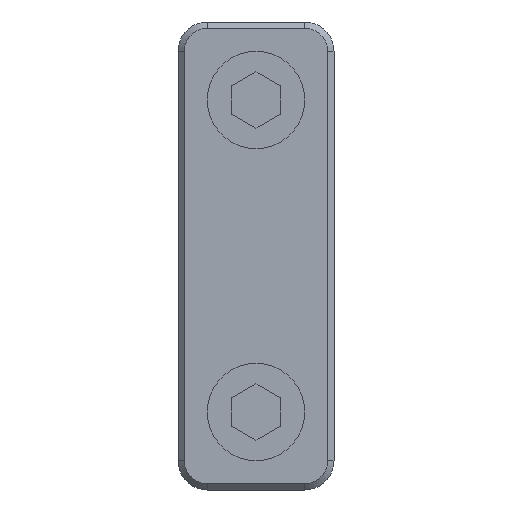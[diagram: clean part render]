
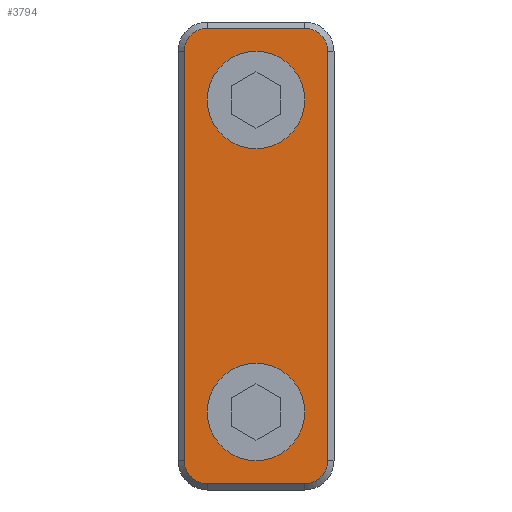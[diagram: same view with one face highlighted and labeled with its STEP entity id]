
A CAD part, front view. The second image highlights one B-rep face of the part: STEP entity #3794.
In plain terms, the highlighted planar face has unit normal (0, -1, 0).
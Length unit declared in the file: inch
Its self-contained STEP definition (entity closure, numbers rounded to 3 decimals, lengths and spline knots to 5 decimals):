
#36 = ORIENTED_EDGE ( 'NONE', *, *, #539, .T. ) ;
#388 = DIRECTION ( 'NONE',  ( 0., 0., 1. ) ) ;
#436 = CIRCLE ( 'NONE', #4595, 0.074 ) ;
#518 = DIRECTION ( 'NONE',  ( 0., -1., 0. ) ) ;
#539 = EDGE_CURVE ( 'NONE', #2747, #8212, #8552, .T. ) ;
#769 = ORIENTED_EDGE ( 'NONE', *, *, #7994, .T. ) ;
#892 = DIRECTION ( 'NONE',  ( 0., -1., 0. ) ) ;
#938 = DIRECTION ( 'NONE',  ( 0., 1., 0. ) ) ;
#1143 = EDGE_CURVE ( 'NONE', #8359, #1504, #1590, .T. ) ;
#1206 = VERTEX_POINT ( 'NONE', #2215 ) ;
#1326 = AXIS2_PLACEMENT_3D ( 'NONE', #5146, #3804, #6005 ) ;
#1340 = AXIS2_PLACEMENT_3D ( 'NONE', #7446, #892, #3830 ) ;
#1353 = ORIENTED_EDGE ( 'NONE', *, *, #7857, .F. ) ;
#1504 = VERTEX_POINT ( 'NONE', #3065 ) ;
#1590 = CIRCLE ( 'NONE', #6188, 0.074 ) ;
#1599 = DIRECTION ( 'NONE',  ( 0., 0., 1. ) ) ;
#1867 = CARTESIAN_POINT ( 'NONE',  ( 0., 0., -0.5 ) ) ;
#1937 = DIRECTION ( 'NONE',  ( 0., 0., 1. ) ) ;
#2176 = EDGE_LOOP ( 'NONE', ( #6257, #3289 ) ) ;
#2215 = CARTESIAN_POINT ( 'NONE',  ( 0., 0., -0.4205 ) ) ;
#2249 = CIRCLE ( 'NONE', #1326, 0.0795 ) ;
#2285 = AXIS2_PLACEMENT_3D ( 'NONE', #1867, #3266, #7604 ) ;
#2287 = VERTEX_POINT ( 'NONE', #6050 ) ;
#2412 = CARTESIAN_POINT ( 'NONE',  ( 0.156, 0., -0.73 ) ) ;
#2427 = FACE_OUTER_BOUND ( 'NONE', #3998, .T. ) ;
#2438 = VERTEX_POINT ( 'NONE', #8646 ) ;
#2477 = PLANE ( 'NONE',  #8258 ) ;
#2481 = VERTEX_POINT ( 'NONE', #4242 ) ;
#2536 = CARTESIAN_POINT ( 'NONE',  ( 0.25, 0., -0.73 ) ) ;
#2547 = EDGE_CURVE ( 'NONE', #2438, #2287, #3823, .T. ) ;
#2660 = ORIENTED_EDGE ( 'NONE', *, *, #4427, .T. ) ;
#2747 = VERTEX_POINT ( 'NONE', #7489 ) ;
#2958 = EDGE_CURVE ( 'NONE', #5639, #8639, #436, .T. ) ;
#3061 = CIRCLE ( 'NONE', #2285, 0.0795 ) ;
#3065 = CARTESIAN_POINT ( 'NONE',  ( -0.156, 0., -0.73 ) ) ;
#3158 = DIRECTION ( 'NONE',  ( 0., 0., 1. ) ) ;
#3178 = AXIS2_PLACEMENT_3D ( 'NONE', #6298, #8495, #1937 ) ;
#3266 = DIRECTION ( 'NONE',  ( 0., -1., 0. ) ) ;
#3289 = ORIENTED_EDGE ( 'NONE', *, *, #5834, .F. ) ;
#3370 = DIRECTION ( 'NONE',  ( 0., -1., 0. ) ) ;
#3434 = VECTOR ( 'NONE', #4191, 39.37008 ) ;
#3575 = DIRECTION ( 'NONE',  ( 0., 0., -1. ) ) ;
#3578 = ORIENTED_EDGE ( 'NONE', *, *, #5319, .F. ) ;
#3772 = FACE_BOUND ( 'NONE', #4676, .T. ) ;
#3794 = ADVANCED_FACE ( 'NONE', ( #3772, #7539, #2427 ), #2477, .F. ) ;
#3804 = DIRECTION ( 'NONE',  ( 0., -1., 0. ) ) ;
#3823 = CIRCLE ( 'NONE', #6725, 0.0795 ) ;
#3830 = DIRECTION ( 'NONE',  ( 0., 0., -1. ) ) ;
#3907 = EDGE_CURVE ( 'NONE', #5777, #2747, #7281, .T. ) ;
#3998 = EDGE_LOOP ( 'NONE', ( #4236, #769, #6800, #5789, #8698, #36, #7016, #2660 ) ) ;
#4044 = CARTESIAN_POINT ( 'NONE',  ( -0.156, 0., -0.656 ) ) ;
#4096 = AXIS2_PLACEMENT_3D ( 'NONE', #7663, #3370, #8437 ) ;
#4191 = DIRECTION ( 'NONE',  ( -1., 0., 0. ) ) ;
#4236 = ORIENTED_EDGE ( 'NONE', *, *, #1143, .T. ) ;
#4242 = CARTESIAN_POINT ( 'NONE',  ( -0.23, 0., 0.656 ) ) ;
#4427 = EDGE_CURVE ( 'NONE', #2481, #8359, #7242, .T. ) ;
#4595 = AXIS2_PLACEMENT_3D ( 'NONE', #5664, #518, #4986 ) ;
#4612 = EDGE_CURVE ( 'NONE', #8639, #5777, #5913, .T. ) ;
#4676 = EDGE_LOOP ( 'NONE', ( #1353, #3578 ) ) ;
#4748 = CARTESIAN_POINT ( 'NONE',  ( 0., 0., -0.5795 ) ) ;
#4986 = DIRECTION ( 'NONE',  ( 0., 0., 1. ) ) ;
#5078 = CARTESIAN_POINT ( 'NONE',  ( -0.156, 0., 0.73 ) ) ;
#5125 = CARTESIAN_POINT ( 'NONE',  ( 0.23, 0., 0.656 ) ) ;
#5146 = CARTESIAN_POINT ( 'NONE',  ( 0., 0., -0.5 ) ) ;
#5319 = EDGE_CURVE ( 'NONE', #1206, #8837, #2249, .T. ) ;
#5464 = DIRECTION ( 'NONE',  ( 1., 0., 0. ) ) ;
#5546 = CARTESIAN_POINT ( 'NONE',  ( -0.156, 0., 0.73 ) ) ;
#5639 = VERTEX_POINT ( 'NONE', #2412 ) ;
#5664 = CARTESIAN_POINT ( 'NONE',  ( 0.156, 0., -0.656 ) ) ;
#5777 = VERTEX_POINT ( 'NONE', #5125 ) ;
#5789 = ORIENTED_EDGE ( 'NONE', *, *, #4612, .T. ) ;
#5834 = EDGE_CURVE ( 'NONE', #2287, #2438, #8244, .T. ) ;
#5866 = CARTESIAN_POINT ( 'NONE',  ( 0.23, 0., 0.75 ) ) ;
#5908 = CARTESIAN_POINT ( 'NONE',  ( 0.23, 0., -0.656 ) ) ;
#5913 = LINE ( 'NONE', #5866, #6370 ) ;
#6005 = DIRECTION ( 'NONE',  ( 0., 0., -1. ) ) ;
#6050 = CARTESIAN_POINT ( 'NONE',  ( 0., 0., 0.5795 ) ) ;
#6188 = AXIS2_PLACEMENT_3D ( 'NONE', #4044, #6964, #388 ) ;
#6257 = ORIENTED_EDGE ( 'NONE', *, *, #2547, .F. ) ;
#6298 = CARTESIAN_POINT ( 'NONE',  ( 0.156, 0., 0.656 ) ) ;
#6370 = VECTOR ( 'NONE', #1599, 39.37008 ) ;
#6725 = AXIS2_PLACEMENT_3D ( 'NONE', #9325, #8691, #3575 ) ;
#6790 = CARTESIAN_POINT ( 'NONE',  ( 0.25, 0., 0.75 ) ) ;
#6800 = ORIENTED_EDGE ( 'NONE', *, *, #2958, .T. ) ;
#6964 = DIRECTION ( 'NONE',  ( 0., -1., 0. ) ) ;
#7002 = CIRCLE ( 'NONE', #4096, 0.074 ) ;
#7016 = ORIENTED_EDGE ( 'NONE', *, *, #7108, .T. ) ;
#7108 = EDGE_CURVE ( 'NONE', #8212, #2481, #7002, .T. ) ;
#7242 = LINE ( 'NONE', #8013, #9278 ) ;
#7281 = CIRCLE ( 'NONE', #3178, 0.074 ) ;
#7446 = CARTESIAN_POINT ( 'NONE',  ( 0., 0., 0.5 ) ) ;
#7489 = CARTESIAN_POINT ( 'NONE',  ( 0.156, 0., 0.73 ) ) ;
#7539 = FACE_BOUND ( 'NONE', #2176, .T. ) ;
#7604 = DIRECTION ( 'NONE',  ( 0., 0., -1. ) ) ;
#7663 = CARTESIAN_POINT ( 'NONE',  ( -0.156, 0., 0.656 ) ) ;
#7857 = EDGE_CURVE ( 'NONE', #8837, #1206, #3061, .T. ) ;
#7994 = EDGE_CURVE ( 'NONE', #1504, #5639, #9099, .T. ) ;
#8013 = CARTESIAN_POINT ( 'NONE',  ( -0.23, 0., 0.75 ) ) ;
#8212 = VERTEX_POINT ( 'NONE', #5078 ) ;
#8244 = CIRCLE ( 'NONE', #1340, 0.0795 ) ;
#8258 = AXIS2_PLACEMENT_3D ( 'NONE', #6790, #938, #3158 ) ;
#8359 = VERTEX_POINT ( 'NONE', #8801 ) ;
#8437 = DIRECTION ( 'NONE',  ( 0., 0., 1. ) ) ;
#8495 = DIRECTION ( 'NONE',  ( 0., -1., 0. ) ) ;
#8552 = LINE ( 'NONE', #5546, #3434 ) ;
#8639 = VERTEX_POINT ( 'NONE', #5908 ) ;
#8646 = CARTESIAN_POINT ( 'NONE',  ( 0., 0., 0.4205 ) ) ;
#8691 = DIRECTION ( 'NONE',  ( 0., -1., 0. ) ) ;
#8698 = ORIENTED_EDGE ( 'NONE', *, *, #3907, .T. ) ;
#8801 = CARTESIAN_POINT ( 'NONE',  ( -0.23, 0., -0.656 ) ) ;
#8837 = VERTEX_POINT ( 'NONE', #4748 ) ;
#8863 = VECTOR ( 'NONE', #5464, 39.37008 ) ;
#9099 = LINE ( 'NONE', #2536, #8863 ) ;
#9278 = VECTOR ( 'NONE', #9460, 39.37008 ) ;
#9325 = CARTESIAN_POINT ( 'NONE',  ( 0., 0., 0.5 ) ) ;
#9460 = DIRECTION ( 'NONE',  ( 0., 0., -1. ) ) ;
